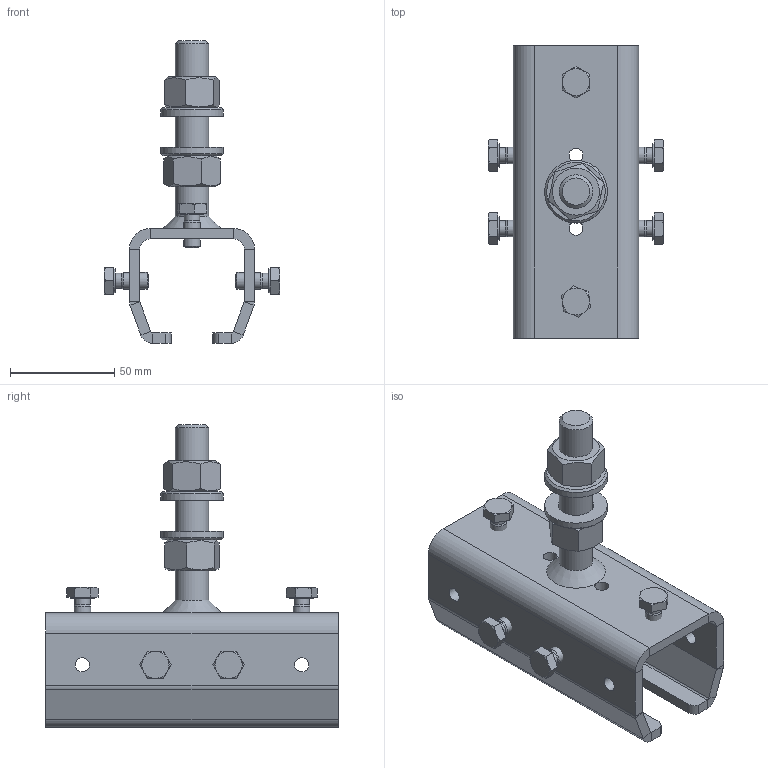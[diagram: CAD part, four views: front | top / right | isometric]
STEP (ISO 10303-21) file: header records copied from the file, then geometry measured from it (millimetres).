
FILE_DESCRIPTION(/* description */ ('H/S Verbindungsmuffe Nr.2'),/* implementation_level */ '2;1');
FILE_NAME(/* name */ 'C:\Users\avlesti\Desktop\Trace Part Bauteilefamilien\18 Tabelle Verbindungsmuffe HS verstellbar\010335012.stp',/* time_stamp */ '2020-05-15T12:35:34+02:00',/* author */ ('avlesti'),/* organization */ (''),/* preprocessor_version */ 'ST-DEVELOPER v17.2',/* originating_system */ 'Autodesk Inventor 2019',/* authorisation */ '');
FILE_SCHEMA (('AUTOMOTIVE_DESIGN { 1 0 10303 214 3 1 1 }'));
Length unit declared in the file: millimetre
Products named in the file (8): 010335012; 010335012_01; 010335012_01_1; 010335012_02; 000302234; DIN EN ISO 4017 - M8  x 16; DIN 6916 - 17; DIN EN ISO 4032 - M16
Assembly tree (14 placements, depth 3):
  010335012
    010335012_01
      010335012_01_1
      010335012_02
      000302234
    DIN EN ISO 4017 - M8  x 16  x6
    DIN 6916 - 17  x2
    DIN EN ISO 4032 - M16  x2
Bounding box: 84.1 x 140 x 145 mm (x, y, z)
Volume: 160145.1 mm3; surface area: 71012 mm2
Topology: 13 solids, 13 shells, 242 faces, 554 edges, 349 vertices
Faces by surface type: plane 125, cone 63, cylinder 54
Full cylindrical faces by diameter (mm): 6.647 x8, 6.8 x4, 7.323 x6, 8 x6, 11.4 x6, 13.835 x2, 16 x2, 17 x2, 30 x2
Entity records: 3734 total; most frequent: DIRECTION 641, CARTESIAN_POINT 628, ORIENTED_EDGE 544, EDGE_CURVE 272, AXIS2_PLACEMENT_3D 252, VERTEX_POINT 167, EDGE_LOOP 149, LINE 137
